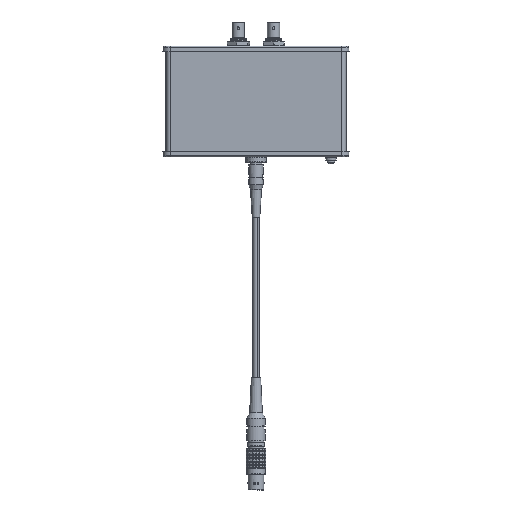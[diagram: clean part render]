
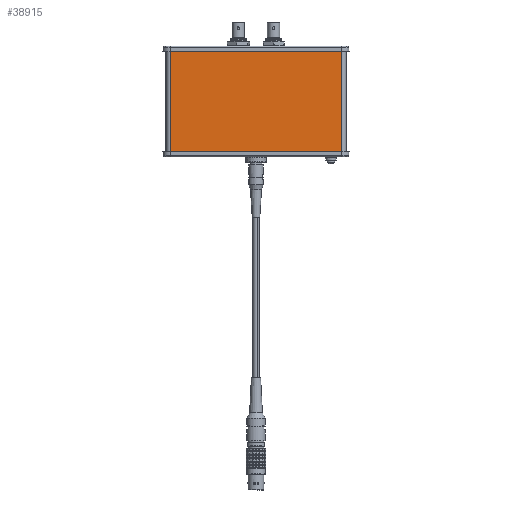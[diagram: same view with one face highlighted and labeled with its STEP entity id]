
A CAD part, front view. The second image highlights one B-rep face of the part: STEP entity #38915.
In plain terms, the highlighted planar face has unit normal (0, -1, 0).
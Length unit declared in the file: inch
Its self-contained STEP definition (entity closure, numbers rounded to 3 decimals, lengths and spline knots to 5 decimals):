
#195 = EDGE_CURVE ( 'NONE', #35078, #90328, #12060, .T. ) ;
#1414 = CARTESIAN_POINT ( 'NONE',  ( 2.5765, -0.68898, 1.5748 ) ) ;
#6803 = CARTESIAN_POINT ( 'NONE',  ( -2.5765, -0.68898, -1.5748 ) ) ;
#9996 = VECTOR ( 'NONE', #67627, 39.37008 ) ;
#12060 = LINE ( 'NONE', #84174, #9996 ) ;
#12576 = AXIS2_PLACEMENT_3D ( 'NONE', #79455, #61194, #97147 ) ;
#13287 = VECTOR ( 'NONE', #31644, 39.37008 ) ;
#14740 = CARTESIAN_POINT ( 'NONE',  ( -2.5765, -0.68898, -1.5748 ) ) ;
#20141 = ORIENTED_EDGE ( 'NONE', *, *, #90945, .F. ) ;
#31218 = VECTOR ( 'NONE', #96208, 39.37008 ) ;
#31644 = DIRECTION ( 'NONE',  ( 1., 0., 0. ) ) ;
#35078 = VERTEX_POINT ( 'NONE', #112699 ) ;
#35081 = ORIENTED_EDGE ( 'NONE', *, *, #87273, .T. ) ;
#38915 = ADVANCED_FACE ( 'NONE', ( #75969 ), #40515, .F. ) ;
#40515 = PLANE ( 'NONE',  #12576 ) ;
#41590 = LINE ( 'NONE', #68194, #93728 ) ;
#41698 = LINE ( 'NONE', #48279, #13287 ) ;
#47660 = ORIENTED_EDGE ( 'NONE', *, *, #102985, .T. ) ;
#48279 = CARTESIAN_POINT ( 'NONE',  ( 0., -0.68898, 1.5748 ) ) ;
#51239 = ORIENTED_EDGE ( 'NONE', *, *, #195, .T. ) ;
#56237 = EDGE_LOOP ( 'NONE', ( #20141, #47660, #35081, #51239 ) ) ;
#60672 = CARTESIAN_POINT ( 'NONE',  ( -2.5765, -0.68898, 1.5748 ) ) ;
#61194 = DIRECTION ( 'NONE',  ( 0., 1., 0. ) ) ;
#67402 = VERTEX_POINT ( 'NONE', #6803 ) ;
#67627 = DIRECTION ( 'NONE',  ( 0., 0., 1. ) ) ;
#68194 = CARTESIAN_POINT ( 'NONE',  ( 0., -0.68898, -1.5748 ) ) ;
#69953 = DIRECTION ( 'NONE',  ( 1., 0., 0. ) ) ;
#75969 = FACE_OUTER_BOUND ( 'NONE', #56237, .T. ) ;
#79455 = CARTESIAN_POINT ( 'NONE',  ( 0., -0.68898, 1.5748 ) ) ;
#84174 = CARTESIAN_POINT ( 'NONE',  ( 2.5765, -0.68898, 1.5748 ) ) ;
#84859 = VERTEX_POINT ( 'NONE', #60672 ) ;
#87273 = EDGE_CURVE ( 'NONE', #67402, #35078, #41590, .T. ) ;
#90328 = VERTEX_POINT ( 'NONE', #1414 ) ;
#90945 = EDGE_CURVE ( 'NONE', #84859, #90328, #41698, .T. ) ;
#93728 = VECTOR ( 'NONE', #69953, 39.37008 ) ;
#96208 = DIRECTION ( 'NONE',  ( 0., 0., -1. ) ) ;
#97147 = DIRECTION ( 'NONE',  ( 0., 0., 1. ) ) ;
#102985 = EDGE_CURVE ( 'NONE', #84859, #67402, #113972, .T. ) ;
#112699 = CARTESIAN_POINT ( 'NONE',  ( 2.5765, -0.68898, -1.5748 ) ) ;
#113972 = LINE ( 'NONE', #14740, #31218 ) ;
